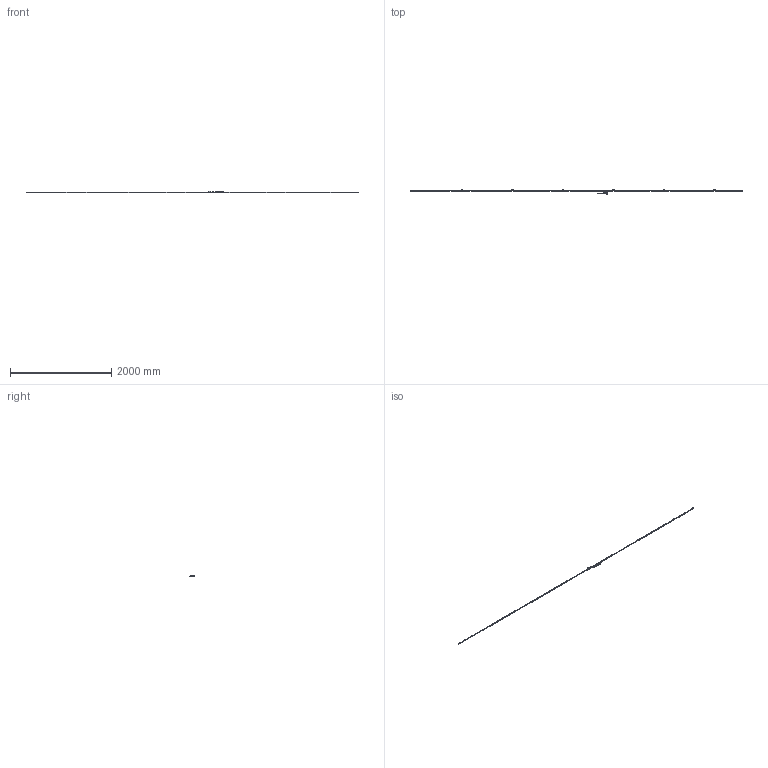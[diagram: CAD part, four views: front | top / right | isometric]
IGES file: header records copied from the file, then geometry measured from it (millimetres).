
Start section: Elysium IGES Interface
Global section: file name: 90H\\Utsu119s\kiyo_cad\data\3D\ABS ST1300\HP掲載用_201803\ST1300-Dタイプ\PKG\ST1300-6400D.igs; native system: Creo Elements/Direct Modeling 18.1B  29-Sep-2012; preprocessor: Creo Element/Direct IGES_3D V2.2; author: Unknown; organization: Unknown; date: 20180301.151808; units: millimetre
Bounding box: 6573 x 88.3 x 30.1 mm (x, y, z)
Volume: 574769.5 mm3; surface area: 362139.9 mm2
Topology: 3 solids, 10 shells, 5323 faces, 14330 edges, 9250 vertices
Faces by surface type: bspline 5323
